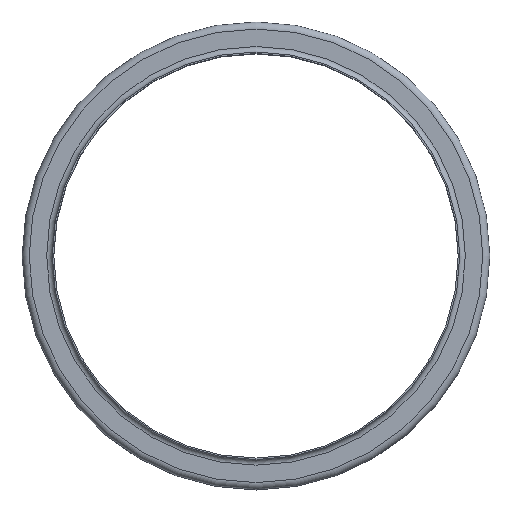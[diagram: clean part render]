
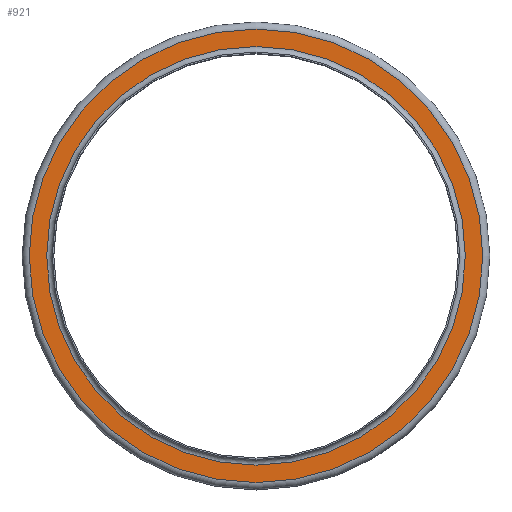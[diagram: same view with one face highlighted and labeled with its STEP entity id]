
A CAD part, top view. The second image highlights one B-rep face of the part: STEP entity #921.
In plain terms, the highlighted planar face has unit normal (0, 0, 1).
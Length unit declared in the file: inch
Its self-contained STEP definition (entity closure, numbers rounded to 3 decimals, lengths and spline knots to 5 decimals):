
#98=FACE_BOUND('',#272,.T.);
#165=FACE_OUTER_BOUND('',#271,.T.);
#271=EDGE_LOOP('',(#772));
#272=EDGE_LOOP('',(#773));
#385=CIRCLE('',#1110,8.28);
#386=CIRCLE('',#1112,8.97);
#466=VERTEX_POINT('',#1734);
#467=VERTEX_POINT('',#1738);
#571=EDGE_CURVE('',#466,#466,#385,.T.);
#572=EDGE_CURVE('',#467,#467,#386,.T.);
#772=ORIENTED_EDGE('',*,*,#572,.F.);
#773=ORIENTED_EDGE('',*,*,#571,.T.);
#854=PLANE('',#1111);
#921=ADVANCED_FACE('',(#165,#98),#854,.T.);
#1110=AXIS2_PLACEMENT_3D('',#1736,#1446,#1447);
#1111=AXIS2_PLACEMENT_3D('',#1737,#1448,#1449);
#1112=AXIS2_PLACEMENT_3D('',#1739,#1450,#1451);
#1446=DIRECTION('center_axis',(0.,0.,-1.));
#1447=DIRECTION('ref_axis',(1.,0.,0.));
#1448=DIRECTION('center_axis',(0.,0.,1.));
#1449=DIRECTION('ref_axis',(1.,0.,0.));
#1450=DIRECTION('center_axis',(0.,0.,-1.));
#1451=DIRECTION('ref_axis',(1.,0.,0.));
#1734=CARTESIAN_POINT('',(8.28,0.,-0.22));
#1736=CARTESIAN_POINT('Origin',(0.,0.,-0.22));
#1737=CARTESIAN_POINT('Origin',(0.,8.97,-0.22));
#1738=CARTESIAN_POINT('',(8.97,0.,-0.22));
#1739=CARTESIAN_POINT('Origin',(0.,0.,-0.22));
